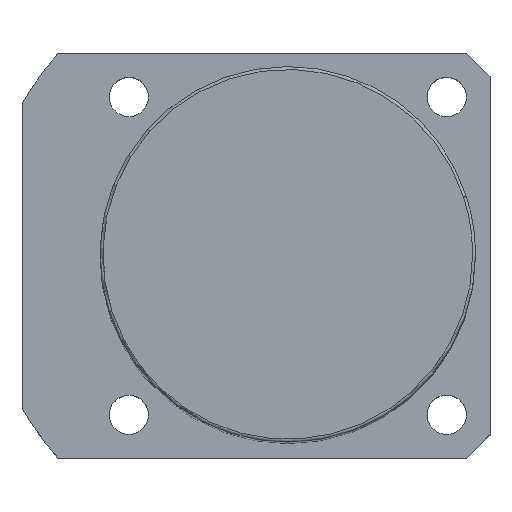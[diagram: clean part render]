
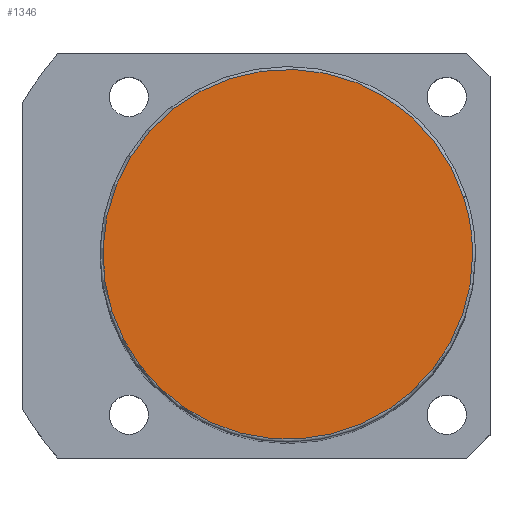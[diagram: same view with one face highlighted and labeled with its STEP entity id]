
A CAD part, top view. The second image highlights one B-rep face of the part: STEP entity #1346.
In plain terms, the highlighted planar face has unit normal (0, 0, 1).
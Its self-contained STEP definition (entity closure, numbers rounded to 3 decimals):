
#1279=CARTESIAN_POINT('',(30.434,9.889,166.0));
#1280=VERTEX_POINT('',#1279);
#1298=CARTESIAN_POINT('',(-30.434,-9.889,166.0));
#1299=VERTEX_POINT('',#1298);
#1307=CARTESIAN_POINT('',(0.0,0.0,166.0));
#1308=DIRECTION('',(0.0,0.0,1.0));
#1309=DIRECTION('',(1.0,0.0,0.0));
#1310=AXIS2_PLACEMENT_3D('',#1307,#1308,#1309);
#1311=CIRCLE('',#1310,32.0);
#1312=EDGE_CURVE('no 1863',#1280,#1299,#1311,.T.);
#1322=CARTESIAN_POINT('',(32.0,0.0,166.0));
#1323=VERTEX_POINT('',#1322);
#1324=CARTESIAN_POINT('',(0.0,0.0,166.0));
#1325=DIRECTION('',(0.0,0.0,1.0));
#1326=DIRECTION('',(1.0,0.0,0.0));
#1327=AXIS2_PLACEMENT_3D('',#1324,#1325,#1326);
#1328=CIRCLE('',#1327,32.0);
#1329=EDGE_CURVE('no 1872',#1323,#1280,#1328,.T.);
#1330=ORIENTED_EDGE('',*,*,#1329,.T.);
#1331=ORIENTED_EDGE('',*,*,#1312,.T.);
#1332=CARTESIAN_POINT('',(0.0,0.0,166.0));
#1333=DIRECTION('',(0.0,0.0,1.0));
#1334=DIRECTION('',(1.0,0.0,0.0));
#1335=AXIS2_PLACEMENT_3D('',#1332,#1333,#1334);
#1336=CIRCLE('',#1335,32.0);
#1337=EDGE_CURVE('no 1878',#1299,#1323,#1336,.T.);
#1338=ORIENTED_EDGE('',*,*,#1337,.T.);
#1339=EDGE_LOOP('',(#1330,#1331,#1338));
#1340=FACE_OUTER_BOUND('',#1339,.T.);
#1341=CARTESIAN_POINT('',(0.0,0.0,166.0));
#1342=DIRECTION('',(0.0,0.0,1.0));
#1343=DIRECTION('',(1.0,0.0,0.0));
#1344=AXIS2_PLACEMENT_3D('',#1341,#1342,#1343);
#1345=PLANE('',#1344);
#1346=ADVANCED_FACE('no 1865',(#1340),#1345,.T.);
